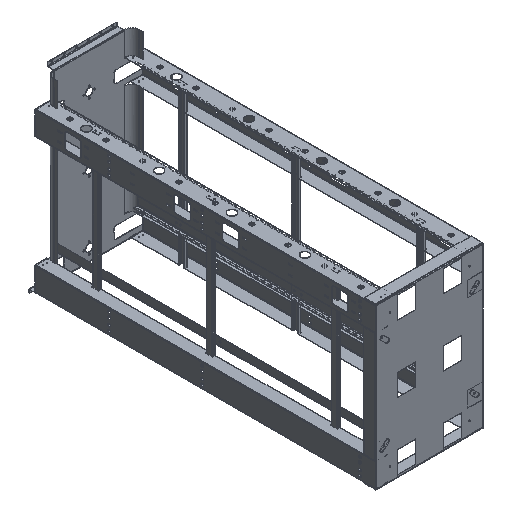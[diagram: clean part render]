
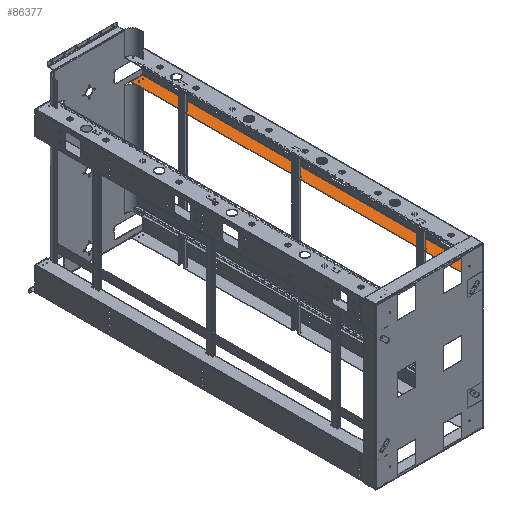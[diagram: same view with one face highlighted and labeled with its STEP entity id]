
A CAD part, isometric view. The second image highlights one B-rep face of the part: STEP entity #86377.
In plain terms, the highlighted free-form (B-spline) face has degree [1, 1] with [2, 2] control points.
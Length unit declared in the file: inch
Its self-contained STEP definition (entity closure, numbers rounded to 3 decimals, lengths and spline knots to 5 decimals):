
#46051=CARTESIAN_POINT('V403',(0.1875,83.131,
   2.1995));
#46052=VERTEX_POINT('V403',#46051);
#46053=CARTESIAN_POINT('E580',(0.1875,83.131,
   2.1995));
#46054=CARTESIAN_POINT('E580',(0.1875,82.88765,
   2.1995));
#46055=CARTESIAN_POINT('E580',(0.1875,83.00932,
   1.98875));
#46056=CARTESIAN_POINT('E580',(0.1875,83.131,
   1.778));
#46057=CARTESIAN_POINT('E580',(0.1875,83.25268,
   1.98875));
#46058=CARTESIAN_POINT('E580',(0.1875,83.37435,
   2.1995));
#46059=CARTESIAN_POINT('E580',(0.1875,83.131,
   2.1995));
#46067=(BOUNDED_CURVE()B_SPLINE_CURVE(2,(#46053,#46054,#46055,
   #46056,#46057,#46058,#46059),.CIRCULAR_ARC.,.T.,.U.)
   B_SPLINE_CURVE_WITH_KNOTS((3,2,2,3),(0.0,0.33333,
   0.66667,1.0),.UNSPECIFIED.)CURVE()
   GEOMETRIC_REPRESENTATION_ITEM()RATIONAL_B_SPLINE_CURVE((1.0,
   0.5,1.0,0.5,1.0,0.5,1.0)
   )REPRESENTATION_ITEM('E580'));
#46068=EDGE_CURVE('E580',#46052,#46052,#46067,.T.);
#46120=CARTESIAN_POINT('V401',(0.1875,1.0,
   2.1995));
#46121=VERTEX_POINT('V401',#46120);
#46122=CARTESIAN_POINT('E577',(0.1875,1.0,
   2.1995));
#46123=CARTESIAN_POINT('E577',(0.1875,0.75665,
   2.1995));
#46124=CARTESIAN_POINT('E577',(0.1875,0.87832,
   1.98875));
#46125=CARTESIAN_POINT('E577',(0.1875,1.0,
   1.778));
#46126=CARTESIAN_POINT('E577',(0.1875,1.12168,
   1.98875));
#46127=CARTESIAN_POINT('E577',(0.1875,1.24335,
   2.1995));
#46128=CARTESIAN_POINT('E577',(0.1875,1.0,
   2.1995));
#46136=(BOUNDED_CURVE()B_SPLINE_CURVE(2,(#46122,#46123,#46124,
   #46125,#46126,#46127,#46128),.CIRCULAR_ARC.,.T.,.U.)
   B_SPLINE_CURVE_WITH_KNOTS((3,2,2,3),(0.0,0.33333,
   0.66667,1.0),.UNSPECIFIED.)CURVE()
   GEOMETRIC_REPRESENTATION_ITEM()RATIONAL_B_SPLINE_CURVE((1.0,
   0.5,1.0,0.5,1.0,0.5,1.0)
   )REPRESENTATION_ITEM('E577'));
#46137=EDGE_CURVE('E577',#46121,#46121,#46136,.T.);
#54984=CARTESIAN_POINT('V1730',(0.1875,11.687,
   3.059));
#54985=VERTEX_POINT('V1730',#54984);
#54986=CARTESIAN_POINT('V1728',(0.1875,11.687,
   2.405));
#54987=VERTEX_POINT('V1728',#54986);
#54988=CARTESIAN_POINT('E2590',(0.1875,11.687,
   3.059));
#54989=CARTESIAN_POINT('E2590',(0.1875,11.687,
   2.405));
#54990=QUASI_UNIFORM_CURVE('E2590',1,(#54988,#54989),.POLYLINE_FORM.,
   .F.,.U.);
#54991=EDGE_CURVE('E2590',#54985,#54987,#54990,.T.);
#55020=CARTESIAN_POINT('V1726',(0.1875,13.372,
   2.405));
#55021=VERTEX_POINT('V1726',#55020);
#55022=CARTESIAN_POINT('E2587',(0.1875,11.687,
   2.405));
#55023=CARTESIAN_POINT('E2587',(0.1875,13.372,
   2.405));
#55024=QUASI_UNIFORM_CURVE('E2587',1,(#55022,#55023),.POLYLINE_FORM.,
   .F.,.U.);
#55025=EDGE_CURVE('E2587',#54987,#55021,#55024,.T.);
#55048=CARTESIAN_POINT('V1724',(0.1875,13.372,
   3.059));
#55049=VERTEX_POINT('V1724',#55048);
#55050=CARTESIAN_POINT('E2584',(0.1875,13.372,
   2.405));
#55051=CARTESIAN_POINT('E2584',(0.1875,13.372,
   3.059));
#55052=QUASI_UNIFORM_CURVE('E2584',1,(#55050,#55051),.POLYLINE_FORM.,
   .F.,.U.);
#55053=EDGE_CURVE('E2584',#55021,#55049,#55052,.T.);
#55076=CARTESIAN_POINT('V1722',(0.1875,42.595,
   3.059));
#55077=VERTEX_POINT('V1722',#55076);
#55078=CARTESIAN_POINT('E2581',(0.1875,13.372,
   3.059));
#55079=CARTESIAN_POINT('E2581',(0.1875,42.595,
   3.059));
#55080=QUASI_UNIFORM_CURVE('E2581',1,(#55078,#55079),.POLYLINE_FORM.,
   .F.,.U.);
#55081=EDGE_CURVE('E2581',#55049,#55077,#55080,.T.);
#55104=CARTESIAN_POINT('V1720',(0.1875,42.595,
   2.405));
#55105=VERTEX_POINT('V1720',#55104);
#55106=CARTESIAN_POINT('E2578',(0.1875,42.595,
   3.059));
#55107=CARTESIAN_POINT('E2578',(0.1875,42.595,
   2.405));
#55108=QUASI_UNIFORM_CURVE('E2578',1,(#55106,#55107),.POLYLINE_FORM.,
   .F.,.U.);
#55109=EDGE_CURVE('E2578',#55077,#55105,#55108,.T.);
#55132=CARTESIAN_POINT('V1718',(0.1875,44.28,
   2.405));
#55133=VERTEX_POINT('V1718',#55132);
#55134=CARTESIAN_POINT('E2575',(0.1875,42.595,
   2.405));
#55135=CARTESIAN_POINT('E2575',(0.1875,44.28,
   2.405));
#55136=QUASI_UNIFORM_CURVE('E2575',1,(#55134,#55135),.POLYLINE_FORM.,
   .F.,.U.);
#55137=EDGE_CURVE('E2575',#55105,#55133,#55136,.T.);
#55160=CARTESIAN_POINT('V1716',(0.1875,44.28,
   3.059));
#55161=VERTEX_POINT('V1716',#55160);
#55162=CARTESIAN_POINT('E2572',(0.1875,44.28,
   2.405));
#55163=CARTESIAN_POINT('E2572',(0.1875,44.28,
   3.059));
#55164=QUASI_UNIFORM_CURVE('E2572',1,(#55162,#55163),.POLYLINE_FORM.,
   .F.,.U.);
#55165=EDGE_CURVE('E2572',#55133,#55161,#55164,.T.);
#55188=CARTESIAN_POINT('V1714',(0.1875,70.759,
   3.059));
#55189=VERTEX_POINT('V1714',#55188);
#55190=CARTESIAN_POINT('E2569',(0.1875,44.28,
   3.059));
#55191=CARTESIAN_POINT('E2569',(0.1875,70.759,
   3.059));
#55192=QUASI_UNIFORM_CURVE('E2569',1,(#55190,#55191),.POLYLINE_FORM.,
   .F.,.U.);
#55193=EDGE_CURVE('E2569',#55161,#55189,#55192,.T.);
#55216=CARTESIAN_POINT('V1712',(0.1875,70.759,
   2.405));
#55217=VERTEX_POINT('V1712',#55216);
#55218=CARTESIAN_POINT('E2566',(0.1875,70.759,
   3.059));
#55219=CARTESIAN_POINT('E2566',(0.1875,70.759,
   2.405));
#55220=QUASI_UNIFORM_CURVE('E2566',1,(#55218,#55219),.POLYLINE_FORM.,
   .F.,.U.);
#55221=EDGE_CURVE('E2566',#55189,#55217,#55220,.T.);
#55244=CARTESIAN_POINT('V1708',(0.1875,72.444,
   2.405));
#55245=VERTEX_POINT('V1708',#55244);
#55246=CARTESIAN_POINT('E2563',(0.1875,70.759,
   2.405));
#55247=CARTESIAN_POINT('E2563',(0.1875,72.444,
   2.405));
#55248=QUASI_UNIFORM_CURVE('E2563',1,(#55246,#55247),.POLYLINE_FORM.,
   .F.,.U.);
#55249=EDGE_CURVE('E2563',#55217,#55245,#55248,.T.);
#55272=CARTESIAN_POINT('V1709',(0.1875,72.444,
   3.059));
#55273=VERTEX_POINT('V1709',#55272);
#55274=CARTESIAN_POINT('E2559',(0.1875,72.444,
   2.405));
#55275=CARTESIAN_POINT('E2559',(0.1875,72.444,
   3.059));
#55276=QUASI_UNIFORM_CURVE('E2559',1,(#55274,#55275),.POLYLINE_FORM.,
   .F.,.U.);
#55277=EDGE_CURVE('E2559',#55245,#55273,#55276,.T.);
#55300=CARTESIAN_POINT('V1706',(0.1875,84.131,
   3.059));
#55301=VERTEX_POINT('V1706',#55300);
#55302=CARTESIAN_POINT('E2665',(0.1875,72.444,
   3.059));
#55303=CARTESIAN_POINT('E2665',(0.1875,84.131,
   3.059));
#55304=QUASI_UNIFORM_CURVE('E2665',1,(#55302,#55303),.POLYLINE_FORM.,
   .F.,.U.);
#55305=EDGE_CURVE('E2665',#55273,#55301,#55304,.T.);
#55328=CARTESIAN_POINT('V1702',(0.1875,84.131,
   0.2275));
#55329=VERTEX_POINT('V1702',#55328);
#55330=CARTESIAN_POINT('E2556',(0.1875,84.131,
   3.059));
#55331=CARTESIAN_POINT('E2556',(0.1875,84.131,
   0.2275));
#55332=QUASI_UNIFORM_CURVE('E2556',1,(#55330,#55331),.POLYLINE_FORM.,
   .F.,.U.);
#55333=EDGE_CURVE('E2556',#55301,#55329,#55332,.T.);
#86277=CARTESIAN_POINT('V1734',(0.1875,0.,
   0.2275));
#86278=VERTEX_POINT('V1734',#86277);
#86279=CARTESIAN_POINT('E2666',(0.1875,84.131,
   0.2275));
#86280=CARTESIAN_POINT('E2666',(0.1875,0.,
   0.2275));
#86281=QUASI_UNIFORM_CURVE('E2666',1,(#86279,#86280),.POLYLINE_FORM.,
   .F.,.U.);
#86282=EDGE_CURVE('E2666',#55329,#86278,#86281,.T.);
#86321=CARTESIAN_POINT('V1732',(0.1875,0.,
   3.059));
#86322=VERTEX_POINT('V1732',#86321);
#86323=CARTESIAN_POINT('E2600',(0.1875,0.,
   0.2275));
#86324=CARTESIAN_POINT('E2600',(0.1875,0.,
   3.059));
#86325=QUASI_UNIFORM_CURVE('E2600',1,(#86323,#86324),.POLYLINE_FORM.,
   .F.,.U.);
#86326=EDGE_CURVE('E2600',#86278,#86322,#86325,.T.);
#86344=CARTESIAN_POINT('F865',(0.1875,84.13218,
   3.06018));
#86345=CARTESIAN_POINT('F865',(0.1875,84.13218,
   0.22632));
#86346=CARTESIAN_POINT('F865',(0.1875,-0.00118,
   3.06018));
#86347=CARTESIAN_POINT('F865',(0.1875,-0.00118,
   0.22632));
#86348=B_SPLINE_SURFACE_WITH_KNOTS('F865',1,1,((#86344,#86346),(
   #86345,#86347)),.PLANE_SURF.,.F.,.F.,.U.,(2,2),(2,2),(0.0,1.0),
   (0.0,29.68859),.UNSPECIFIED.);
#86349=ORIENTED_EDGE('E2666',*,*,#86282,.F.);
#86350=ORIENTED_EDGE('E2556',*,*,#55333,.F.);
#86351=ORIENTED_EDGE('E2665',*,*,#55305,.F.);
#86352=ORIENTED_EDGE('E2559',*,*,#55277,.F.);
#86353=ORIENTED_EDGE('E2563',*,*,#55249,.F.);
#86354=ORIENTED_EDGE('E2566',*,*,#55221,.F.);
#86355=ORIENTED_EDGE('E2569',*,*,#55193,.F.);
#86356=ORIENTED_EDGE('E2572',*,*,#55165,.F.);
#86357=ORIENTED_EDGE('E2575',*,*,#55137,.F.);
#86358=ORIENTED_EDGE('E2578',*,*,#55109,.F.);
#86359=ORIENTED_EDGE('E2581',*,*,#55081,.F.);
#86360=ORIENTED_EDGE('E2584',*,*,#55053,.F.);
#86361=ORIENTED_EDGE('E2587',*,*,#55025,.F.);
#86362=ORIENTED_EDGE('E2590',*,*,#54991,.F.);
#86363=CARTESIAN_POINT('E2593',(0.1875,0.,
   3.059));
#86364=CARTESIAN_POINT('E2593',(0.1875,11.687,
   3.059));
#86365=QUASI_UNIFORM_CURVE('E2593',1,(#86363,#86364),.POLYLINE_FORM.,
   .F.,.U.);
#86366=EDGE_CURVE('E2593',#86322,#54985,#86365,.T.);
#86367=ORIENTED_EDGE('E2593',*,*,#86366,.F.);
#86368=ORIENTED_EDGE('E2600',*,*,#86326,.F.);
#86369=EDGE_LOOP('F865',(#86349,#86350,#86351,#86352,#86353,#86354,
   #86355,#86356,#86357,#86358,#86359,#86360,#86361,#86362,#86367,
   #86368));
#86370=FACE_OUTER_BOUND('F865',#86369,.T.);
#86371=ORIENTED_EDGE('E577',*,*,#46137,.F.);
#86372=EDGE_LOOP('F865',(#86371));
#86373=FACE_BOUND('F865',#86372,.T.);
#86374=ORIENTED_EDGE('E580',*,*,#46068,.F.);
#86375=EDGE_LOOP('F865',(#86374));
#86376=FACE_BOUND('F865',#86375,.T.);
#86377=ADVANCED_FACE('F865',(#86370,#86373,#86376),#86348,.F.);
